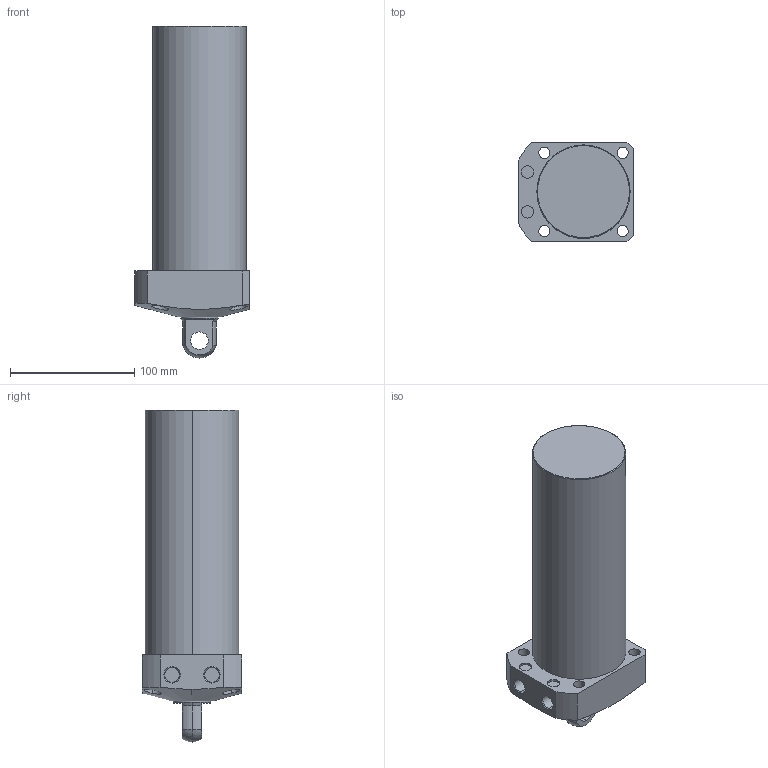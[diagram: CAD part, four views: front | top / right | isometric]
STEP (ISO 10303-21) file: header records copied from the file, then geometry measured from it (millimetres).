
FILE_DESCRIPTION (( 'STEP AP203' ), '1' );
FILE_NAME ('CLL-075CP-160.STEP', '2019-12-25T08:00:59', ( '' ), ( '' ), 'SwSTEP 2.0', 'SolidWorks 2015', '' );
FILE_SCHEMA (( 'CONFIG_CONTROL_DESIGN' ));
Length unit declared in the file: millimetre
Products named in the file (1): CLL-075CP-160
Bounding box: 92 x 80 x 267 mm (x, y, z)
Volume: 1097761.2 mm3; surface area: 78320.7 mm2
Topology: 1 solids, 1 shells, 68 faces, 159 edges, 103 vertices
Faces by surface type: cylinder 35, plane 21, cone 8, sphere 2, torus 2
Entity records: 2459 total; most frequent: CARTESIAN_POINT 762, DIRECTION 357, ORIENTED_EDGE 318, EDGE_CURVE 159, AXIS2_PLACEMENT_3D 149, VERTEX_POINT 103, EDGE_LOOP 88, CIRCLE 80
